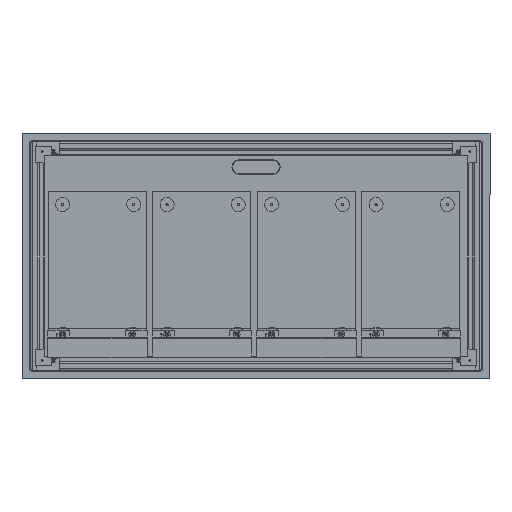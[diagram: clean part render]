
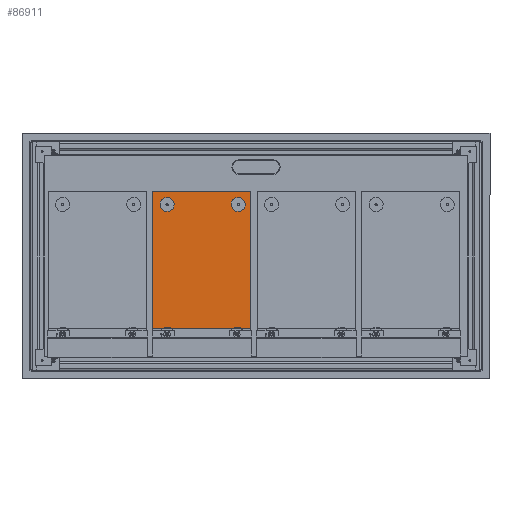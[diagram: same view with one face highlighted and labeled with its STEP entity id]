
A CAD part, front view. The second image highlights one B-rep face of the part: STEP entity #86911.
In plain terms, the highlighted planar face has unit normal (0, -1, 0).
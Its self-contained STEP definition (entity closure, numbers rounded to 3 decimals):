
#541 = DIRECTION ( 'NONE',  ( 0., 0., -1. ) ) ;
#2788 = DIRECTION ( 'NONE',  ( 0., -1., 0. ) ) ;
#4685 = EDGE_CURVE ( 'NONE', #53735, #48361, #11195, .T. ) ;
#5042 = CARTESIAN_POINT ( 'NONE',  ( 17.74, -49., 117.914 ) ) ;
#5196 = AXIS2_PLACEMENT_3D ( 'NONE', #5042, #32763, #74101 ) ;
#6071 = CARTESIAN_POINT ( 'NONE',  ( 52.24, -49., 152.914 ) ) ;
#6237 = VECTOR ( 'NONE', #541, 1000. ) ;
#8163 = EDGE_CURVE ( 'NONE', #21233, #9375, #31109, .T. ) ;
#8883 = CARTESIAN_POINT ( 'NONE',  ( 52.24, -49., -217.086 ) ) ;
#9375 = VERTEX_POINT ( 'NONE', #80352 ) ;
#10244 = AXIS2_PLACEMENT_3D ( 'NONE', #61627, #54386, #41203 ) ;
#10323 = CARTESIAN_POINT ( 'NONE',  ( 26.872, -49., 101.252 ) ) ;
#11195 = LINE ( 'NONE', #79758, #77036 ) ;
#13300 = LINE ( 'NONE', #89099, #6237 ) ;
#13531 = CARTESIAN_POINT ( 'NONE',  ( 17.74, -49., 117.914 ) ) ;
#17219 = VERTEX_POINT ( 'NONE', #10323 ) ;
#17389 = ORIENTED_EDGE ( 'NONE', *, *, #85749, .T. ) ;
#19556 = EDGE_CURVE ( 'NONE', #9375, #21233, #67024, .T. ) ;
#19995 = EDGE_LOOP ( 'NONE', ( #57774, #66893, #76366, #17389 ) ) ;
#21233 = VERTEX_POINT ( 'NONE', #51499 ) ;
#21585 = CIRCLE ( 'NONE', #78124, 19. ) ;
#21888 = DIRECTION ( 'NONE',  ( -1., 0., 0. ) ) ;
#24122 = DIRECTION ( 'NONE',  ( 0., 0., 1. ) ) ;
#28034 = EDGE_LOOP ( 'NONE', ( #71017, #83186 ) ) ;
#28375 = FACE_OUTER_BOUND ( 'NONE', #19995, .T. ) ;
#29903 = DIRECTION ( 'NONE',  ( 0., 1., 0. ) ) ;
#30204 = EDGE_CURVE ( 'NONE', #53735, #63590, #80562, .T. ) ;
#31109 = CIRCLE ( 'NONE', #61605, 19. ) ;
#32763 = DIRECTION ( 'NONE',  ( 0., 1., 0. ) ) ;
#33404 = EDGE_CURVE ( 'NONE', #17219, #39248, #83468, .T. ) ;
#35234 = CARTESIAN_POINT ( 'NONE',  ( -212.76, -49., 152.914 ) ) ;
#35596 = ORIENTED_EDGE ( 'NONE', *, *, #88681, .T. ) ;
#35893 = CARTESIAN_POINT ( 'NONE',  ( 8.607, -49., 134.575 ) ) ;
#36266 = EDGE_LOOP ( 'NONE', ( #78400, #35596 ) ) ;
#37673 = DIRECTION ( 'NONE',  ( 0.481, 0., -0.877 ) ) ;
#38267 = FACE_BOUND ( 'NONE', #28034, .T. ) ;
#38510 = DIRECTION ( 'NONE',  ( 0., 0., 1. ) ) ;
#38724 = EDGE_CURVE ( 'NONE', #54912, #63590, #13300, .T. ) ;
#39248 = VERTEX_POINT ( 'NONE', #35893 ) ;
#39814 = VECTOR ( 'NONE', #73783, 1000. ) ;
#41203 = DIRECTION ( 'NONE',  ( 0.481, 0., -0.877 ) ) ;
#41291 = DIRECTION ( 'NONE',  ( 0.481, 0., -0.877 ) ) ;
#41939 = CARTESIAN_POINT ( 'NONE',  ( 52.24, -49., 152.914 ) ) ;
#45086 = PLANE ( 'NONE',  #79849 ) ;
#46118 = CARTESIAN_POINT ( 'NONE',  ( 52.24, -49., -217.086 ) ) ;
#48361 = VERTEX_POINT ( 'NONE', #6071 ) ;
#51499 = CARTESIAN_POINT ( 'NONE',  ( -165.128, -49., 101.252 ) ) ;
#51889 = FACE_BOUND ( 'NONE', #36266, .T. ) ;
#53591 = DIRECTION ( 'NONE',  ( 0., 1., 0. ) ) ;
#53735 = VERTEX_POINT ( 'NONE', #8883 ) ;
#54386 = DIRECTION ( 'NONE',  ( 0., 1., 0. ) ) ;
#54912 = VERTEX_POINT ( 'NONE', #35234 ) ;
#57774 = ORIENTED_EDGE ( 'NONE', *, *, #38724, .T. ) ;
#61605 = AXIS2_PLACEMENT_3D ( 'NONE', #65361, #29903, #37673 ) ;
#61627 = CARTESIAN_POINT ( 'NONE',  ( -174.26, -49., 117.914 ) ) ;
#63590 = VERTEX_POINT ( 'NONE', #78686 ) ;
#65361 = CARTESIAN_POINT ( 'NONE',  ( -174.26, -49., 117.914 ) ) ;
#66893 = ORIENTED_EDGE ( 'NONE', *, *, #30204, .F. ) ;
#67024 = CIRCLE ( 'NONE', #10244, 19. ) ;
#71017 = ORIENTED_EDGE ( 'NONE', *, *, #8163, .T. ) ;
#73783 = DIRECTION ( 'NONE',  ( -1., 0., 0. ) ) ;
#74101 = DIRECTION ( 'NONE',  ( 0.481, 0., -0.877 ) ) ;
#75347 = VECTOR ( 'NONE', #21888, 1000. ) ;
#76366 = ORIENTED_EDGE ( 'NONE', *, *, #4685, .T. ) ;
#77036 = VECTOR ( 'NONE', #38510, 1000. ) ;
#78124 = AXIS2_PLACEMENT_3D ( 'NONE', #13531, #53591, #41291 ) ;
#78400 = ORIENTED_EDGE ( 'NONE', *, *, #33404, .T. ) ;
#78686 = CARTESIAN_POINT ( 'NONE',  ( -212.76, -49., -217.086 ) ) ;
#79758 = CARTESIAN_POINT ( 'NONE',  ( 52.24, -49., -251.086 ) ) ;
#79849 = AXIS2_PLACEMENT_3D ( 'NONE', #79979, #2788, #24122 ) ;
#79979 = CARTESIAN_POINT ( 'NONE',  ( 52.24, -49., 152.914 ) ) ;
#80352 = CARTESIAN_POINT ( 'NONE',  ( -183.393, -49., 134.575 ) ) ;
#80562 = LINE ( 'NONE', #46118, #39814 ) ;
#83186 = ORIENTED_EDGE ( 'NONE', *, *, #19556, .T. ) ;
#83468 = CIRCLE ( 'NONE', #5196, 19. ) ;
#84073 = LINE ( 'NONE', #41939, #75347 ) ;
#85749 = EDGE_CURVE ( 'NONE', #48361, #54912, #84073, .T. ) ;
#86911 = ADVANCED_FACE ( 'NONE', ( #51889, #38267, #28375 ), #45086, .T. ) ;
#88681 = EDGE_CURVE ( 'NONE', #39248, #17219, #21585, .T. ) ;
#89099 = CARTESIAN_POINT ( 'NONE',  ( -212.76, -49., -251.086 ) ) ;
